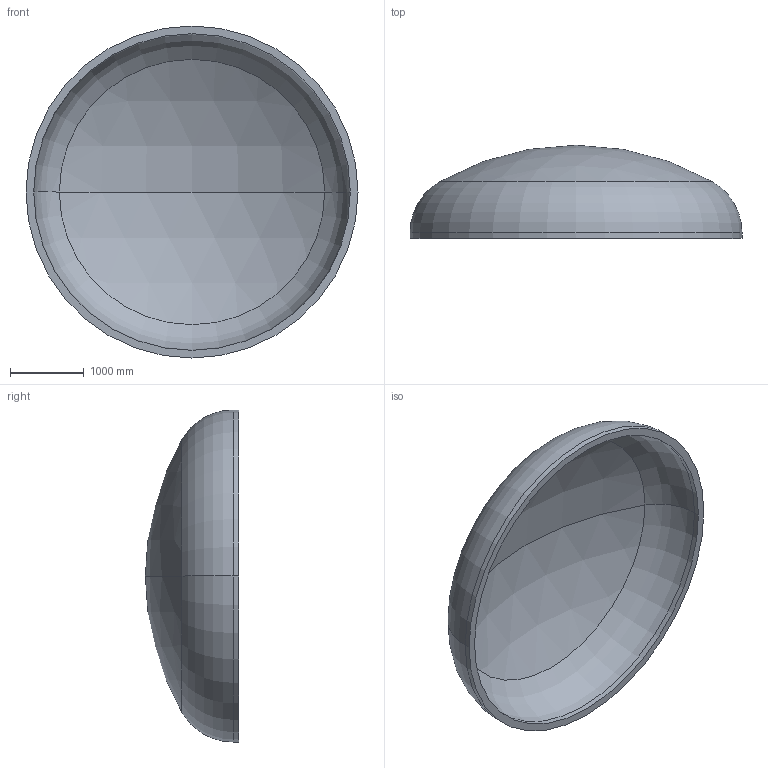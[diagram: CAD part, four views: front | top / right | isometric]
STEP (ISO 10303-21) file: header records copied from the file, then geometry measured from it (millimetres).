
FILE_DESCRIPTION (( 'STEP AP203' ), '1' );
FILE_NAME ('DIN 28013 Korbbogenform_-_Boden DIN 28013 - 4500 x 75 - I - s=104.step', '2016-07-01T23:52:51', ( '' ), ( '' ), 'SwSTEP 2.0', 'SolidWorks 2013', '' );
FILE_SCHEMA (( 'CONFIG_CONTROL_DESIGN' ));
Length unit declared in the file: millimetre
Products named in the file (1): DIN 28013 Korbbogenform_-_Boden DIN 28013 - 4500 x 75 - I - s=104
Bounding box: 4500 x 1262.33 x 4500 mm (x, y, z)
Volume: 2331335252.3 mm3; surface area: 46292293.1 mm2
Topology: 1 solids, 1 shells, 13 faces, 24 edges, 14 vertices
Faces by surface type: torus 4, cylinder 4, sphere 4, plane 1
Entity records: 407 total; most frequent: DIRECTION 72, CARTESIAN_POINT 52, ORIENTED_EDGE 48, AXIS2_PLACEMENT_3D 34, EDGE_CURVE 24, CIRCLE 20, EDGE_LOOP 14, VERTEX_POINT 14
